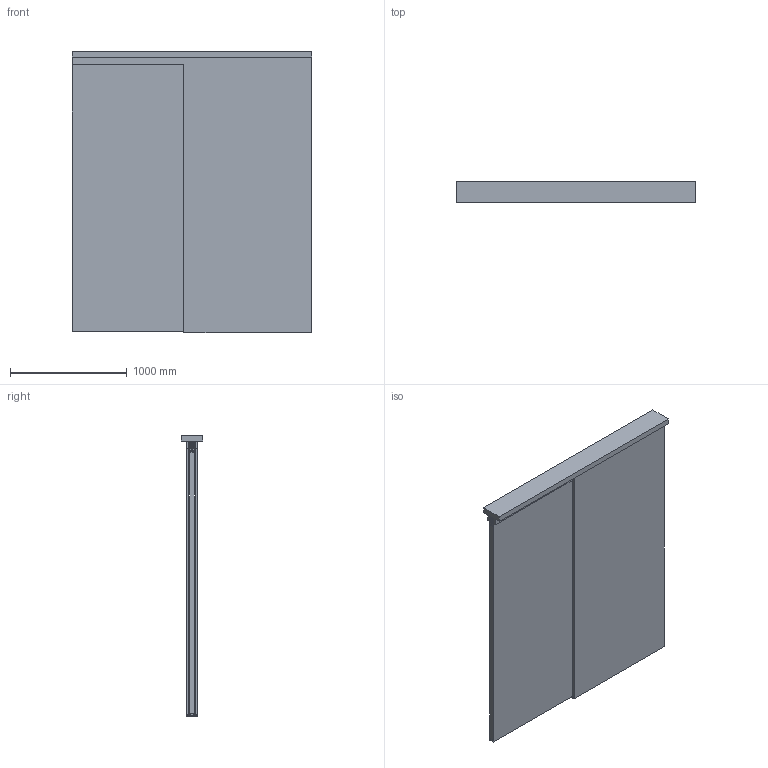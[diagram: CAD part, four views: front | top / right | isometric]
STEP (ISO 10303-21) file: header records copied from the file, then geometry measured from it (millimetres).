
FILE_DESCRIPTION(('STEP AP242'),'1');
FILE_NAME('OPO_65.083.02.stp','2026-02-23T17:27:16',(' '),(' '),'Spatial InterOp 3D',' ',' ');
FILE_SCHEMA(('AP242_MANAGED_MODEL_BASED_3D_ENGINEERING_MIM_LF {1 0 10303 442 1 1 4}'));
Length unit declared in the file: millimetre
Products named in the file (12): Zeichnung1; OPO_65.082.61; OPO_65.083.41; OPO_65.083.02_Aktivator; OPO_65.083.02_Laufwerk_SS_160; OPO_65.083.02_Laufwerk_SS_160_mit_Zweiwege_Daempfer; OPO_65.083.02_Endstopper; OPO_65.083.02_Abdeckung_fuer_Revisionsoeffnung; OPO_65.083.02_Aktivator_lang_Spaceship_160; OPO_65.083.42; OPO_65.083.02_Bodenfuehrung_Pocket_Holz; AutoCreatedBlock_171
Assembly tree (12 placements, depth 2):
  Zeichnung1
    OPO_65.082.61
    OPO_65.083.41
    OPO_65.083.02_Aktivator
    OPO_65.083.02_Laufwerk_SS_160
    OPO_65.083.02_Laufwerk_SS_160_mit_Zweiwege_Daempfer
    OPO_65.083.02_Endstopper  x2
    OPO_65.083.02_Abdeckung_fuer_Revisionsoeffnung
    OPO_65.083.02_Aktivator_lang_Spaceship_160
    OPO_65.083.42
    OPO_65.083.02_Bodenfuehrung_Pocket_Holz
    AutoCreatedBlock_171
Bounding box: 2050.5 x 188 x 2410 mm (x, y, z)
Volume: 212118450.9 mm3; surface area: 18233008.5 mm2
Topology: 83 solids, 83 shells, 1556 faces, 3947 edges, 2609 vertices
Faces by surface type: plane 994, cylinder 542, cone 20
Entity records: 56322 total; most frequent: DIRECTION 7737, CARTESIAN_POINT 7713, ORIENTED_EDGE 7434, EDGE_CURVE 3717, LINE 2643, VECTOR 2643, AXIS2_PLACEMENT_3D 2547, VERTEX_POINT 2459
